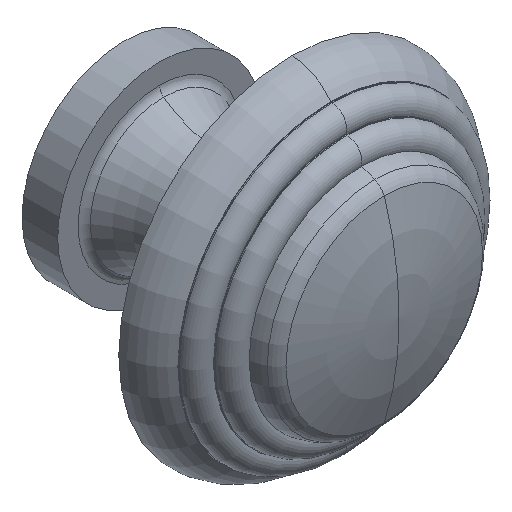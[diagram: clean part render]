
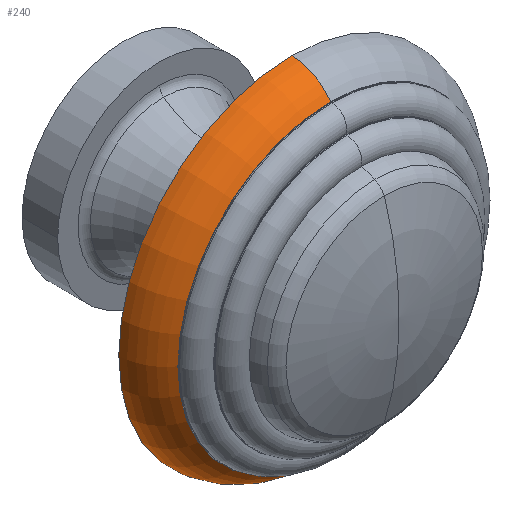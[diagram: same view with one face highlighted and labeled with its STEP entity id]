
A CAD part, isometric view. The second image highlights one B-rep face of the part: STEP entity #240.
In plain terms, the highlighted toroidal (fillet/blend) face has major radius 12.344 mm and minor radius 4.656 mm.
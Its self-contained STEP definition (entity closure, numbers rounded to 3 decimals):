
#202 = VERTEX_POINT( '', #550 );
#230 = EDGE_CURVE( '', #440, #464, #581, .T. );
#240 = ADVANCED_FACE( '', ( #591 ), #592, .T. );
#284 = EDGE_CURVE( '', #202, #352, #643, .T. );
#352 = VERTEX_POINT( '', #718 );
#366 = EDGE_CURVE( '', #352, #464, #734, .T. );
#440 = VERTEX_POINT( '', #819 );
#464 = VERTEX_POINT( '', #844 );
#474 = EDGE_CURVE( '', #440, #202, #854, .T. );
#550 = CARTESIAN_POINT( '', ( 0., -20.3, -15. ) );
#581 = CIRCLE( '', #961, 17. );
#591 = FACE_OUTER_BOUND( '', #974, .T. );
#592 = TOROIDAL_SURFACE( '', #975, 12.344, 4.656 );
#643 = CIRCLE( '', #1039, 15. );
#718 = CARTESIAN_POINT( '', ( 0., -20.3, 15. ) );
#734 = CIRCLE( '', #1149, 4.656 );
#819 = CARTESIAN_POINT( '', ( 0., -16.5, -17. ) );
#844 = CARTESIAN_POINT( '', ( 0., -16.5, 17. ) );
#854 = CIRCLE( '', #1298, 4.656 );
#961 = AXIS2_PLACEMENT_3D( '', #1422, #1423, #1424 );
#974 = EDGE_LOOP( '', ( #1435, #1436, #1437, #1438 ) );
#975 = AXIS2_PLACEMENT_3D( '', #1439, #1440, #1441 );
#1039 = AXIS2_PLACEMENT_3D( '', #1533, #1534, #1535 );
#1149 = AXIS2_PLACEMENT_3D( '', #1659, #1660, #1661 );
#1298 = AXIS2_PLACEMENT_3D( '', #1827, #1828, #1829 );
#1422 = CARTESIAN_POINT( '', ( 0., -16.5, 0. ) );
#1423 = DIRECTION( '', ( 0., 1., 0. ) );
#1424 = DIRECTION( '', ( 1., 0., 0. ) );
#1435 = ORIENTED_EDGE( '', *, *, #366, .T. );
#1436 = ORIENTED_EDGE( '', *, *, #230, .F. );
#1437 = ORIENTED_EDGE( '', *, *, #474, .T. );
#1438 = ORIENTED_EDGE( '', *, *, #284, .T. );
#1439 = CARTESIAN_POINT( '', ( 0., -16.476, 0. ) );
#1440 = DIRECTION( '', ( 0., 1., 0. ) );
#1441 = DIRECTION( '', ( 0., 0., 1. ) );
#1533 = CARTESIAN_POINT( '', ( 0., -20.3, 0. ) );
#1534 = DIRECTION( '', ( 0., 1., 0. ) );
#1535 = DIRECTION( '', ( 1., 0., 0. ) );
#1659 = CARTESIAN_POINT( '', ( 0., -16.476, 12.344 ) );
#1660 = DIRECTION( '', ( -1., 0., 0. ) );
#1661 = DIRECTION( '', ( 0., 0., 1. ) );
#1827 = CARTESIAN_POINT( '', ( 0., -16.476, -12.344 ) );
#1828 = DIRECTION( '', ( -1., 0., 0. ) );
#1829 = DIRECTION( '', ( 0., 0., -1. ) );
